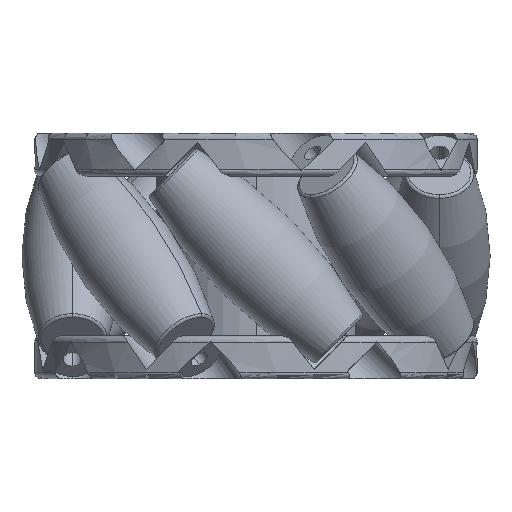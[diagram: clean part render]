
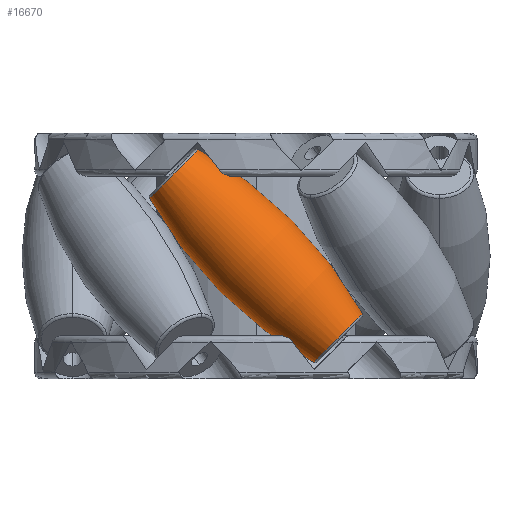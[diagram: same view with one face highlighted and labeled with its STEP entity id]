
A CAD part, front view. The second image highlights one B-rep face of the part: STEP entity #16670.
In plain terms, the highlighted toroidal (fillet/blend) face has major radius 121.5 mm and minor radius 138 mm.
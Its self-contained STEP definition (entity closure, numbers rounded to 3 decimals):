
#716 = DIRECTION ( 'NONE',  ( 0., 1., 0. ) ) ;
#750 = EDGE_CURVE ( 'NONE', #16335, #10219, #2931, .T. ) ;
#1073 = EDGE_CURVE ( 'NONE', #10219, #14206, #14593, .T. ) ;
#1106 = DIRECTION ( 'NONE',  ( 0.707, 0., -0.707 ) ) ;
#1272 = CARTESIAN_POINT ( 'NONE',  ( 26.71, 59.7, 26.71 ) ) ;
#1500 = CIRCLE ( 'NONE', #15326, 138. ) ;
#1502 = CARTESIAN_POINT ( 'NONE',  ( 34.651, 59.7, 18.77 ) ) ;
#2433 = CARTESIAN_POINT ( 'NONE',  ( -85.913, 59.7, 85.913 ) ) ;
#2833 = DIRECTION ( 'NONE',  ( 0.707, 0., 0.707 ) ) ;
#2846 = EDGE_CURVE ( 'NONE', #13398, #16335, #7001, .T. ) ;
#2931 = CIRCLE ( 'NONE', #8000, 138. ) ;
#3083 = EDGE_LOOP ( 'NONE', ( #16005, #13295, #3489, #8782 ) ) ;
#3279 = CARTESIAN_POINT ( 'NONE',  ( -34.651, 59.7, -18.77 ) ) ;
#3489 = ORIENTED_EDGE ( 'NONE', *, *, #1073, .T. ) ;
#6101 = AXIS2_PLACEMENT_3D ( 'NONE', #6274, #2833, #1106 ) ;
#6274 = CARTESIAN_POINT ( 'NONE',  ( -26.71, 59.7, -26.71 ) ) ;
#7001 = CIRCLE ( 'NONE', #11116, 11.23 ) ;
#7463 = DIRECTION ( 'NONE',  ( -0.707, 0., 0.707 ) ) ;
#8000 = AXIS2_PLACEMENT_3D ( 'NONE', #2433, #716, #15792 ) ;
#8782 = ORIENTED_EDGE ( 'NONE', *, *, #13807, .F. ) ;
#9186 = DIRECTION ( 'NONE',  ( -0.707, 0., -0.707 ) ) ;
#10219 = VERTEX_POINT ( 'NONE', #13168 ) ;
#10895 = CARTESIAN_POINT ( 'NONE',  ( 0., 59.7, 0. ) ) ;
#11116 = AXIS2_PLACEMENT_3D ( 'NONE', #1272, #16344, #14625 ) ;
#11806 = DIRECTION ( 'NONE',  ( 0., 0., -1. ) ) ;
#12314 = CARTESIAN_POINT ( 'NONE',  ( 18.77, 59.7, 34.651 ) ) ;
#12623 = FACE_OUTER_BOUND ( 'NONE', #3083, .T. ) ;
#13056 = AXIS2_PLACEMENT_3D ( 'NONE', #10895, #9186, #7463 ) ;
#13168 = CARTESIAN_POINT ( 'NONE',  ( -18.77, 59.7, -34.651 ) ) ;
#13295 = ORIENTED_EDGE ( 'NONE', *, *, #750, .T. ) ;
#13398 = VERTEX_POINT ( 'NONE', #12314 ) ;
#13415 = TOROIDAL_SURFACE ( 'NONE', #13056, -121.5, 138. ) ;
#13518 = DIRECTION ( 'NONE',  ( 0., -1., 0. ) ) ;
#13807 = EDGE_CURVE ( 'NONE', #13398, #14206, #1500, .T. ) ;
#14206 = VERTEX_POINT ( 'NONE', #3279 ) ;
#14593 = CIRCLE ( 'NONE', #6101, 11.23 ) ;
#14625 = DIRECTION ( 'NONE',  ( -0.707, 0., 0.707 ) ) ;
#15234 = CARTESIAN_POINT ( 'NONE',  ( 85.913, 59.7, -85.913 ) ) ;
#15326 = AXIS2_PLACEMENT_3D ( 'NONE', #15234, #13518, #11806 ) ;
#15792 = DIRECTION ( 'NONE',  ( 0., 0., 1. ) ) ;
#16005 = ORIENTED_EDGE ( 'NONE', *, *, #2846, .T. ) ;
#16335 = VERTEX_POINT ( 'NONE', #1502 ) ;
#16344 = DIRECTION ( 'NONE',  ( -0.707, 0., -0.707 ) ) ;
#16670 = ADVANCED_FACE ( 'NONE', ( #12623 ), #13415, .T. ) ;
